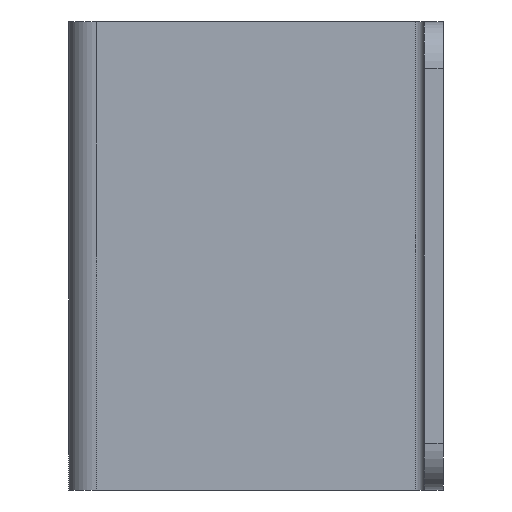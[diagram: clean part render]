
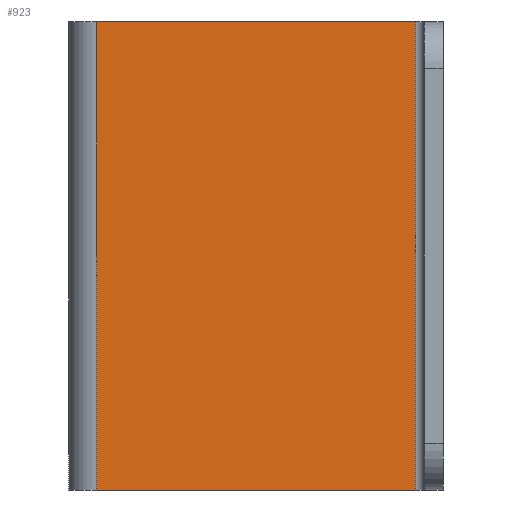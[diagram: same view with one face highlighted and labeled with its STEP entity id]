
A CAD part, left-side view. The second image highlights one B-rep face of the part: STEP entity #923.
In plain terms, the highlighted planar face has unit normal (-1, 0, 0).
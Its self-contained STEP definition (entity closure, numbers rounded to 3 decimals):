
#41=PLANE('',#1031);
#71=FACE_OUTER_BOUND('',#129,.T.);
#129=EDGE_LOOP('',(#743,#744,#745,#746));
#172=LINE('',#1376,#257);
#196=LINE('',#1456,#281);
#220=LINE('',#1540,#305);
#221=LINE('',#1542,#306);
#257=VECTOR('',#1092,10.);
#281=VECTOR('',#1154,10.);
#305=VECTOR('',#1240,10.);
#306=VECTOR('',#1243,10.);
#396=VERTEX_POINT('',#1373);
#397=VERTEX_POINT('',#1375);
#433=VERTEX_POINT('',#1453);
#434=VERTEX_POINT('',#1455);
#487=EDGE_CURVE('',#396,#397,#172,.T.);
#527=EDGE_CURVE('',#433,#434,#196,.T.);
#571=EDGE_CURVE('',#434,#396,#220,.T.);
#572=EDGE_CURVE('',#397,#433,#221,.T.);
#743=ORIENTED_EDGE('',*,*,#571,.F.);
#744=ORIENTED_EDGE('',*,*,#527,.F.);
#745=ORIENTED_EDGE('',*,*,#572,.F.);
#746=ORIENTED_EDGE('',*,*,#487,.F.);
#923=ADVANCED_FACE('',(#71),#41,.T.);
#1031=AXIS2_PLACEMENT_3D('',#1541,#1241,#1242);
#1092=DIRECTION('',(0.,-1.,0.));
#1154=DIRECTION('',(0.,1.,0.));
#1240=DIRECTION('',(0.,0.,1.));
#1241=DIRECTION('center_axis',(-1.,0.,0.));
#1242=DIRECTION('ref_axis',(0.,-1.,0.));
#1243=DIRECTION('',(0.,0.,-1.));
#1373=CARTESIAN_POINT('',(-52.,-3.,25.));
#1375=CARTESIAN_POINT('',(-52.,-37.,25.));
#1376=CARTESIAN_POINT('',(-52.,0.,25.));
#1453=CARTESIAN_POINT('',(-52.,-37.,-25.));
#1455=CARTESIAN_POINT('',(-52.,-3.,-25.));
#1456=CARTESIAN_POINT('',(-52.,0.,-25.));
#1540=CARTESIAN_POINT('',(-52.,-3.,0.));
#1541=CARTESIAN_POINT('Origin',(-52.,0.,0.));
#1542=CARTESIAN_POINT('',(-52.,-37.,0.));
